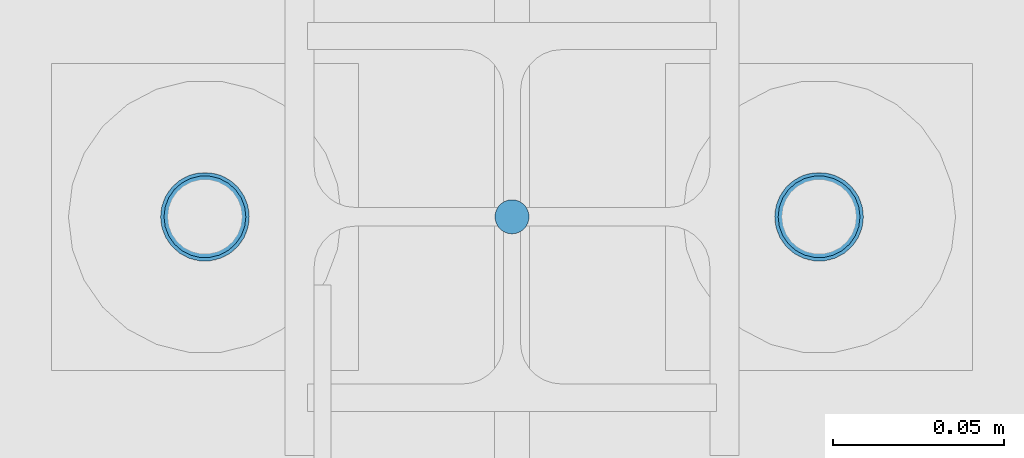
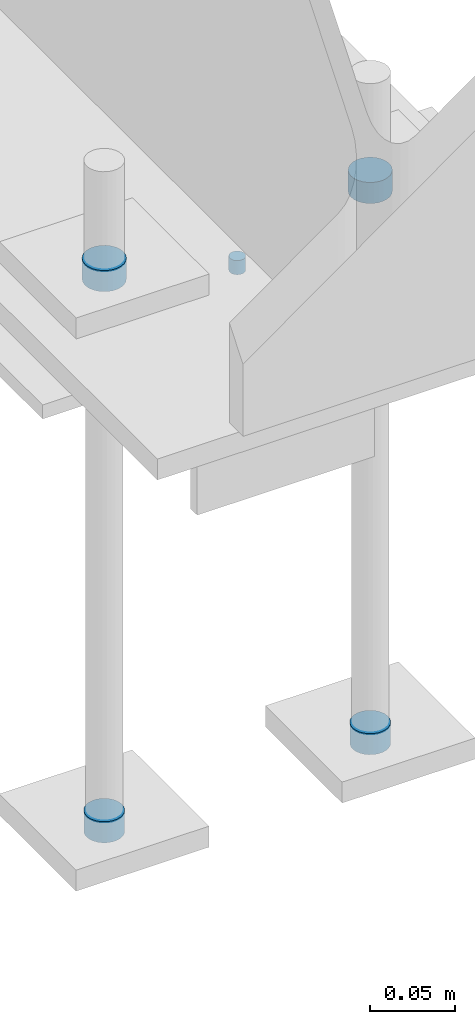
# One storey, part 110 of 123: 5 mechanical fasteners, 1 element without a shape of its own.
"""IFC2X3 building model written with IfcOpenShell, lengths in millimetres."""

from ifc_helpers import new_model, si_unit, frame, origin_with_axes, origin_2d_with_axis, place, context, subcontext, project, spatial, circle, extrude, source, transform, mapped, material, type_object, element, aggregate, save


model = new_model("IFC2X3")

# Units and contexts
model_context = context("Model", 3, precision=1e-05, world=origin_with_axes())
body_context = subcontext(model_context, "Body", "Model", "MODEL_VIEW")
ifc_project = project(units=[si_unit("LENGTHUNIT", "METRE", prefix="MILLI"), si_unit("AREAUNIT", "SQUARE_METRE"), si_unit("VOLUMEUNIT", "CUBIC_METRE"), si_unit("MASSUNIT", "GRAM", prefix="KILO"), si_unit("TIMEUNIT", "SECOND"), si_unit("PLANEANGLEUNIT", "RADIAN"), si_unit("SOLIDANGLEUNIT", "STERADIAN"), si_unit("THERMODYNAMICTEMPERATUREUNIT", "DEGREE_CELSIUS"), si_unit("LUMINOUSINTENSITYUNIT", "LUMEN")], contexts=[model_context])

# Site, building, storey
site_placement = place(None, origin_with_axes())
site = spatial("IfcSite", under=ifc_project, at=site_placement, Name="Undefined", CompositionType="ELEMENT")
building_placement = place(site_placement, origin_with_axes())
building = spatial("IfcBuilding", under=site, at=building_placement, Name="Undefined", CompositionType="ELEMENT")
storey_placement = place(building_placement, origin_with_axes())
storey = spatial("IfcBuildingStorey", under=building, at=storey_placement, Name="Undefined", CompositionType="ELEMENT", Elevation=0.0)

# Assembly, mechanical fasteners
assembly_placement = place(storey_placement, origin_with_axes())
assembly = element("IfcElementAssembly", 1, at=assembly_placement, inside=storey, Name="Steel Assembly", AssemblyPlace="NOTDEFINED", PredefinedType="RIGID_FRAME")
ifc_material = material(Name="6.8")
discrete_accessory_type = type_object("IfcDiscreteAccessoryType", Name="Bolt assembly")
shared_shape_1 = source(origin_with_axes(), body_context, "Body", "SweptSolid", [
    extrude(circle(Radius=13.0, at=origin_2d_with_axis()), frame((0.0, -15.0, 0.0), z_axis=(0.0, 1.0, 0.0), x_axis=(1.0, 0.0, 0.0)), (0.0, 0.0, 1.0), 15.1),
])
mechanical_fastener_1_placement = place(assembly_placement, frame((34189.9971504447, 0.0, -235.0), z_axis=(0.0, -1.0, 0.0), x_axis=(-1.0, 0.0, 0.0)))
mechanical_fastener_1 = element("IfcMechanicalFastener", 2, at=mechanical_fastener_1_placement, type_object=discrete_accessory_type, material=ifc_material, Name="Bolt assembly", NominalDiameter=24.0, NominalLength=15.0, context=body_context, shape_type="MappedRepresentation", body=[
    mapped(shared_shape_1, transform((0.0, 0.0, 0.0))),
])
mechanical_fastener_2_placement = place(assembly_placement, frame((34369.9971504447, 0.0, -235.0), z_axis=(0.0, -1.0, 0.0), x_axis=(-1.0, 0.0, 0.0)))
mechanical_fastener_2 = element("IfcMechanicalFastener", 3, at=mechanical_fastener_2_placement, type_object=discrete_accessory_type, material=ifc_material, Name="Bolt assembly", NominalDiameter=24.0, NominalLength=15.0, context=body_context, shape_type="MappedRepresentation", body=[
    mapped(shared_shape_1, transform((0.0, 0.0, 0.0))),
])
shared_shape_2 = source(origin_with_axes(), body_context, "Body", "SweptSolid", [
    extrude(circle(Radius=12.0, at=origin_2d_with_axis()), frame((0.0, -15.0, 0.0), z_axis=(0.0, 1.0, 0.0), x_axis=(1.0, 0.0, 0.0)), (0.0, 0.0, 1.0), 15.1),
])
mechanical_fastener_3_placement = place(assembly_placement, frame((34189.9971504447, 0.0, -630.0), z_axis=(0.0, -1.0, 0.0), x_axis=(-1.0, 0.0, 0.0)))
mechanical_fastener_3 = element("IfcMechanicalFastener", 4, at=mechanical_fastener_3_placement, type_object=discrete_accessory_type, material=ifc_material, Name="Bolt assembly", NominalDiameter=22.0, NominalLength=15.0, context=body_context, shape_type="MappedRepresentation", body=[
    mapped(shared_shape_2, transform((0.0, 0.0, 0.0))),
])
mechanical_fastener_4_placement = place(assembly_placement, frame((34369.9971504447, 0.0, -630.0), z_axis=(0.0, -1.0, 0.0), x_axis=(-1.0, 0.0, 0.0)))
mechanical_fastener_4 = element("IfcMechanicalFastener", 5, at=mechanical_fastener_4_placement, type_object=discrete_accessory_type, material=ifc_material, Name="Bolt assembly", NominalDiameter=22.0, NominalLength=15.0, context=body_context, shape_type="MappedRepresentation", body=[
    mapped(shared_shape_2, transform((0.0, 0.0, 0.0))),
])
shared_shape_3 = source(origin_with_axes(), body_context, "Body", "SweptSolid", [
    extrude(circle(Radius=5.0, at=origin_2d_with_axis()), frame((0.0, 0.0, 0.0), z_axis=(0.0, 1.0, 0.0), x_axis=(1.0, 0.0, 0.0)), (0.0, 0.0, 1.0), 10.1),
])
mechanical_fastener_5_placement = place(assembly_placement, frame((34280.0000000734, 0.0, -250.0), z_axis=(1.0, 0.0, 0.0), x_axis=(0.0, -1.0, 0.0)))
mechanical_fastener_5 = element("IfcMechanicalFastener", 6, at=mechanical_fastener_5_placement, type_object=discrete_accessory_type, material=ifc_material, Name="Bolt assembly", NominalDiameter=8.0, NominalLength=10.0, context=body_context, shape_type="MappedRepresentation", body=[
    mapped(shared_shape_3, transform((0.0, 0.0, 0.0))),
])
aggregate(assembly, [mechanical_fastener_1, mechanical_fastener_2, mechanical_fastener_3, mechanical_fastener_4, mechanical_fastener_5])

save(model, "model.ifc")
